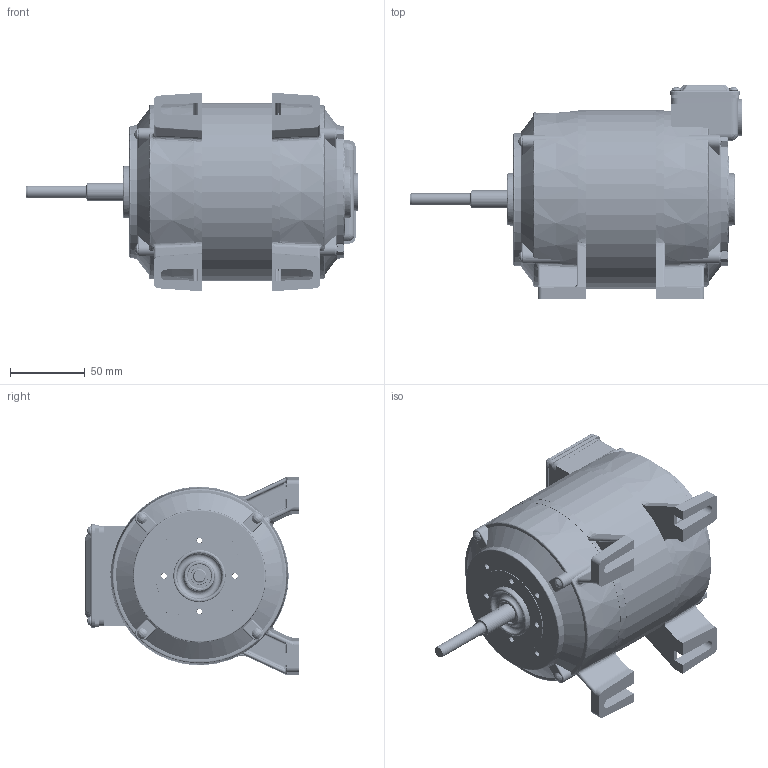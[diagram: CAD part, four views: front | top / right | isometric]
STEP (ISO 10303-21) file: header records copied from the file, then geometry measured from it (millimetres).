
FILE_DESCRIPTION (( 'STEP AP214' ), '1' );
FILE_NAME ('SD18 TENC F.STEP', '2021-07-05T11:22:02', ( '' ), ( '' ), 'SwSTEP 2.0', 'SolidWorks 2020', '' );
FILE_SCHEMA (( 'AUTOMOTIVE_DESIGN' ));
Length unit declared in the file: millimetre
Products named in the file (1): SD18 TENC F
Bounding box: 222.73 x 143.32 x 133.35 mm (x, y, z)
Surface area: 257558.5 mm2 (no closed solid volume)
Topology: 0 solids, 102 shells, 898 faces, 11631 edges, 10754 vertices
Faces by surface type: cylinder 314, plane 221, cone 167, bspline 161, torus 26, sphere 9
Entity records: 140180 total; most frequent: CARTESIAN_POINT 49476, DIRECTION 17561, ORIENTED_EDGE 13626, EDGE_CURVE 11622, VERTEX_POINT 10754, AXIS2_PLACEMENT_3D 6331, CIRCLE 5593, VECTOR 4899
